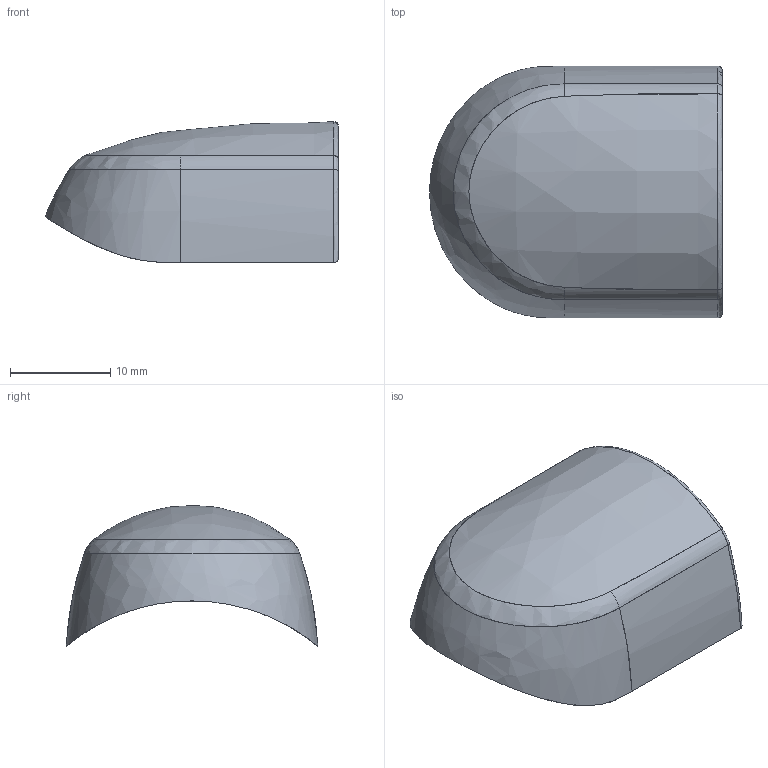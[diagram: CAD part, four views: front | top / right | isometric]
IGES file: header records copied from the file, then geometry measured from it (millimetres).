
Start section: START RECORD GO HERE
Global section: file name: 0223R04; native system: IBM CATIA IGES - CATIA SOLUTIONS V4RELEASE 2.4 REFRESH 02; preprocessor: CATIA SOLUTIONS V4RELEASE 2.4 REFRESH 02; organization: DASSAULT SYSTEMES; date: 030211.132459; units: millimetre
Bounding box: 29.16 x 25.07 x 14.03 mm (x, y, z)
Surface area: 2467.3 mm2 (no closed solid volume)
Topology: 0 solids, 0 shells, 84 faces, 672 edges, 672 vertices
Faces by surface type: bspline 55, extrusion 28, revolution 1
